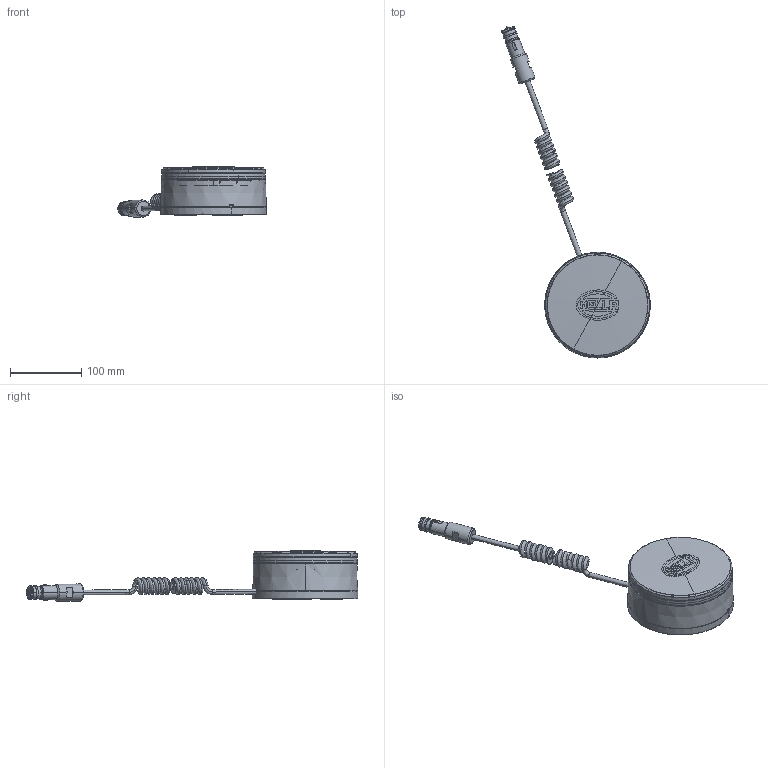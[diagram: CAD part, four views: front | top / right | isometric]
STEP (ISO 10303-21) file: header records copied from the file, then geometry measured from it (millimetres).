
FILE_DESCRIPTION(('CATIA V5 STEP Exchange','CAx-IF Rec.Pracs.--- Model Styling and Organization---1.5--- 2016-08-15','CAx-IF Rec.Pracs.---Supplemental Geometry---1.0---2011-11-01','CAx-IF Rec.Pracs.--- Composite Materials ---1.1---2010-07-15'),'2;1');
FILE_NAME('E:\tmp\ddx\2011221\HELLA_3D_data_K-LED_Rebelution_magnet_455-255-02.stp','2022-01-18T07:31:55+00:00',('none'),('none'),'CATIA Version 5-6 Release 2020 SP3 HF9','CATIA V5 STEP AP214 Edition 3 v2','none');
FILE_SCHEMA(('AUTOMOTIVE_DESIGN { 1 0 10303 214 3 1 1 1 }'));
Length unit declared in the file: millimetre
Products named in the file (1): 10002639198_D10_001
Bounding box: 208.66 x 466.06 x 70.69 mm (x, y, z)
Volume: 855527.1 mm3; surface area: 275640.1 mm2
Topology: 2 solids, 8 shells, 4438 faces, 11431 edges, 6821 vertices
Faces by surface type: bspline 1258, plane 1119, cylinder 864, torus 662, cone 356, sphere 162, extrusion 9, revolution 8
Entity records: 226768 total; most frequent: CARTESIAN_POINT 137723, ORIENTED_EDGE 22538, EDGE_CURVE 11269, DIRECTION 11141, VERTEX_POINT 6819, AXIS2_PLACEMENT_3D 5333, B_SPLINE_CURVE_WITH_KNOTS 5303, EDGE_LOOP 4556
